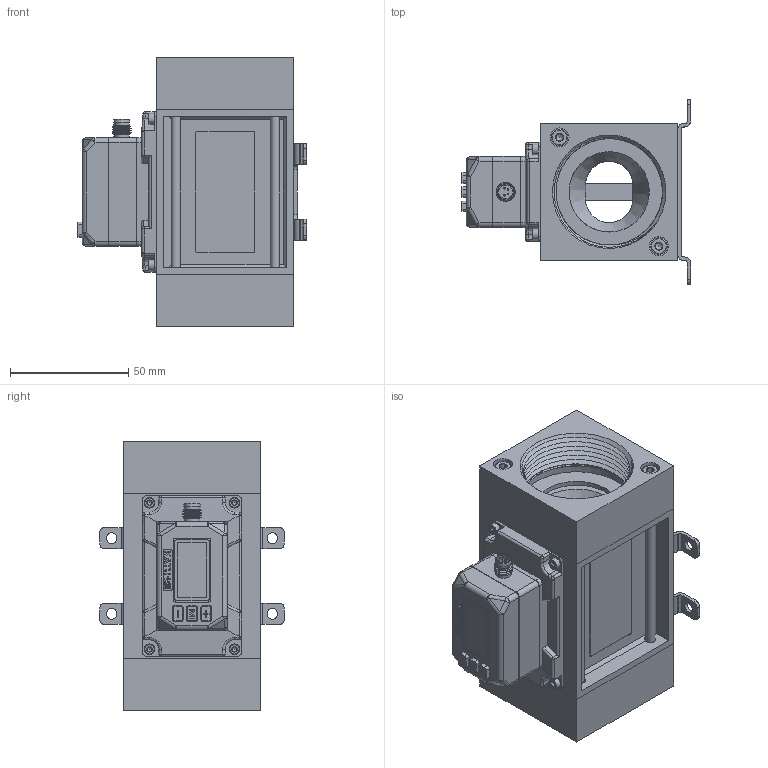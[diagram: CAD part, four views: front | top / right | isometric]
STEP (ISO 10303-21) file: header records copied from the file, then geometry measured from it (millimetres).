
FILE_DESCRIPTION( (''), '2;1');
FILE_NAME( 'QEKJ_250L_R1_M12_LED-display_bracket_2.step', '2023-06-26T20:06:04+08:00', (''), (''), '', '', '');
FILE_SCHEMA (('AUTOMOTIVE_DESIGN { 1 0 10303 214 3 1 1 1 }'));
Length unit declared in the file: millimetre
Products named in the file (1): QEKJ 250L_R1_M12_LED-display_bracket_2
Bounding box: 97.1 x 78 x 114 mm (x, y, z)
Volume: 208717.6 mm3; surface area: 119170.6 mm2
Topology: 19 solids, 20 shells, 1585 faces, 3939 edges, 2485 vertices
Faces by surface type: plane 935, cylinder 402, cone 126, torus 56, sphere 28, bspline 22, extrusion 16
Full cylindrical faces by diameter (mm): 0.6 x4, 1.6 x4, 2 x2, 2.05 x8, 2.38 x4, 2.8 x4, 3 x4, 3.3 x4, 3.838 x8, 4 x1, 4.5 x28, 5 x8, 5.8 x1, 6.5 x10, 7 x16, 8 x4, 34 x2, 40 x2, 48 x2
Entity records: 51357 total; most frequent: CARTESIAN_POINT 13929, DIRECTION 7420, ORIENTED_EDGE 7262, EDGE_CURVE 3631, AXIS2_PLACEMENT_3D 2568, VERTEX_POINT 2421, VECTOR 2284, LINE 2268
